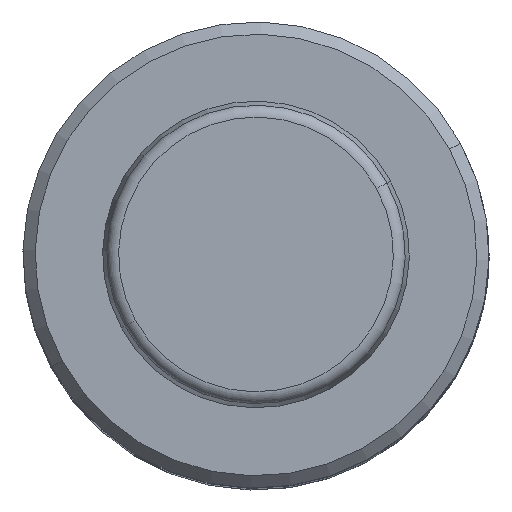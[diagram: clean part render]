
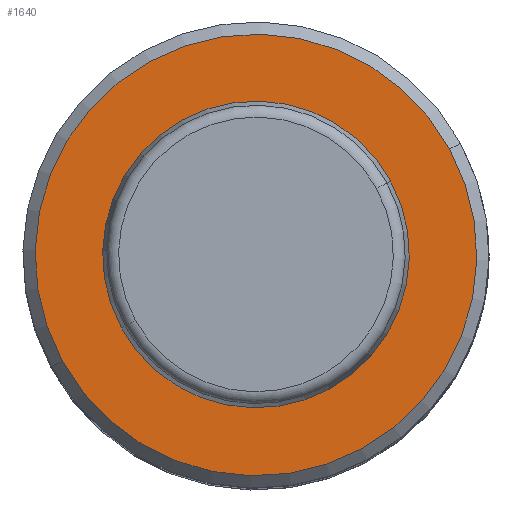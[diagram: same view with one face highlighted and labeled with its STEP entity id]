
A CAD part, top view. The second image highlights one B-rep face of the part: STEP entity #1640.
In plain terms, the highlighted planar face has unit normal (0, 0, 1).
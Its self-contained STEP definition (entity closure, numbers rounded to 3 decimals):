
#1412=CARTESIAN_POINT('Axis2P3D Location',(0.,0.,74.)) ;
#1416=CARTESIAN_POINT('Vertex',(15.796,8.63,74.)) ;
#1418=CARTESIAN_POINT('Vertex',(-15.796,-8.63,74.)) ;
#1447=CARTESIAN_POINT('Axis2P3D Location',(0.,0.,74.)) ;
#1631=CARTESIAN_POINT('Axis2P3D Location',(18.,0.,74.)) ;
#1413=DIRECTION('Axis2P3D Direction',(0.,0.,-1.)) ;
#1448=DIRECTION('Axis2P3D Direction',(0.,0.,-1.)) ;
#1632=DIRECTION('Axis2P3D Direction',(0.,0.,1.)) ;
#1633=DIRECTION('Axis2P3D XDirection',(1.,0.,0.)) ;
#1414=AXIS2_PLACEMENT_3D('Circle Axis2P3D',#1412,#1413,$) ;
#1449=AXIS2_PLACEMENT_3D('Circle Axis2P3D',#1447,#1448,$) ;
#1634=AXIS2_PLACEMENT_3D('Plane Axis2P3D',#1631,#1632,#1633) ;
#1637=ORIENTED_EDGE('',*,*,#1420,.T.) ;
#1638=ORIENTED_EDGE('',*,*,#1451,.T.) ;
#1640=ADVANCED_FACE('',(#1639),#1635,.T.) ;
#1415=CIRCLE('generated circle',#1414,18.) ;
#1450=CIRCLE('generated circle',#1449,18.) ;
#1420=EDGE_CURVE('',#1417,#1419,#1415,.F.) ;
#1451=EDGE_CURVE('',#1419,#1417,#1450,.F.) ;
#1636=EDGE_LOOP('',(#1637,#1638)) ;
#1639=FACE_OUTER_BOUND('',#1636,.T.) ;
#1635=PLANE('Plane',#1634) ;
#1417=VERTEX_POINT('',#1416) ;
#1419=VERTEX_POINT('',#1418) ;
